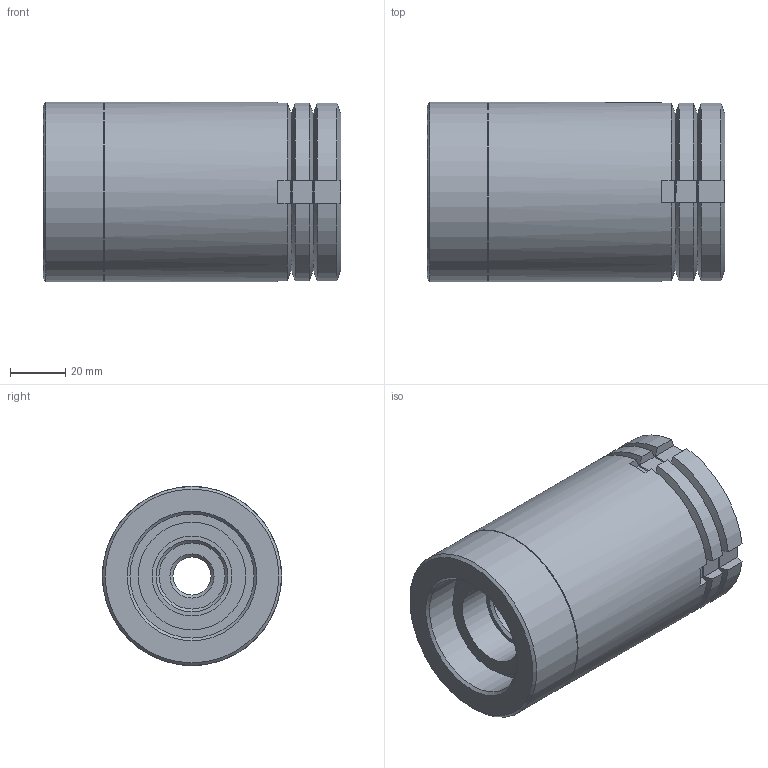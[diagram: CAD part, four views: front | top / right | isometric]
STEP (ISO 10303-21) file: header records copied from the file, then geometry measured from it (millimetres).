
FILE_DESCRIPTION( ( 'STEP AP203' ), '1' );
FILE_NAME( 'C:/Temp/Ganter_Step_05_03_2020/data/3_2/gn360/gn360_st/Levelling set GN 360-65-M16-148-B-ST (0-0).stp', '2020-03-13T05:41:58', ( 'License CC BY-ND 4.0' ), ( 'CADENAS' ), ' ', 'PARTsolutions', ' ' );
FILE_SCHEMA( ( 'CONFIG_CONTROL_DESIGN' ) );
Length unit declared in the file: millimetre
Products named in the file (5): Levelling set GN 360-65-M16-148-B-ST (0-0); _Levelling set GN 360-65-M16-148-B-ST (0-0)-1; _Levelling set GN 360-65-M16-148-B-ST (0-0)-2; _Levelling set GN 360-65-M16-148-B-ST (0-0)-4; _Levelling set GN 360-65-M16-148-B-ST (0-0)-3
Assembly tree (4 placements, depth 2):
  Levelling set GN 360-65-M16-148-B-ST (0-0)
    _Levelling set GN 360-65-M16-148-B-ST (0-0)-1
    _Levelling set GN 360-65-M16-148-B-ST (0-0)-2
    _Levelling set GN 360-65-M16-148-B-ST (0-0)-4
    _Levelling set GN 360-65-M16-148-B-ST (0-0)-3
Bounding box: 108 x 65 x 65 mm (x, y, z)
Volume: 294462 mm3; surface area: 72572.3 mm2
Topology: 4 solids, 4 shells, 95 faces, 229 edges, 148 vertices
Faces by surface type: plane 54, cylinder 22, cone 16, sphere 2, torus 1
Full cylindrical faces by diameter (mm): 13.835 x1, 24 x1, 29 x1, 32 x1, 38 x1, 39 x1, 43 x1, 43.376 x2, 45 x2, 45.5 x1, 65 x2
Entity records: 2924 total; most frequent: CARTESIAN_POINT 768, DIRECTION 396, ORIENTED_EDGE 376, EDGE_CURVE 188, AXIS2_PLACEMENT_3D 168, EDGE_LOOP 142, VERTEX_POINT 140, FACE_OUTER_BOUND 112
